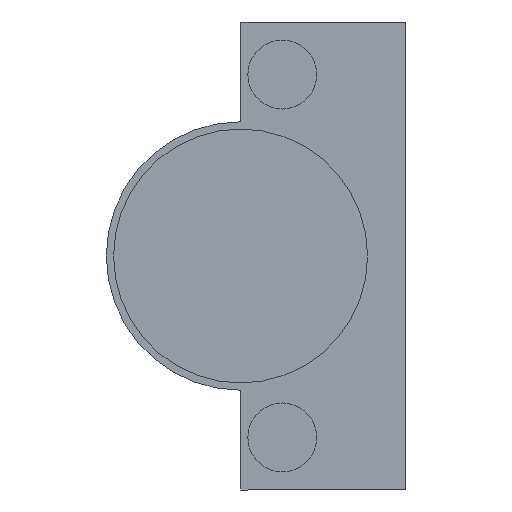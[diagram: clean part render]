
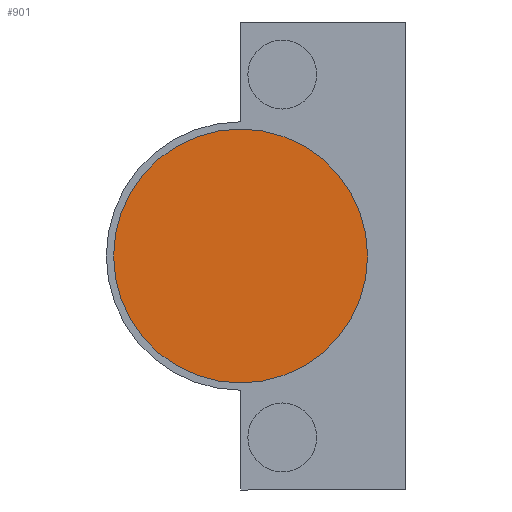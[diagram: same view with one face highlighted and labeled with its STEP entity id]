
A CAD part, front view. The second image highlights one B-rep face of the part: STEP entity #901.
In plain terms, the highlighted planar face has unit normal (0, -1, 0).
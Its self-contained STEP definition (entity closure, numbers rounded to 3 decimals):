
#14 = EDGE_CURVE ( 'NONE', #1265, #965, #587, .T. ) ;
#113 = AXIS2_PLACEMENT_3D ( 'NONE', #1296, #1310, #1294 ) ;
#116 = AXIS2_PLACEMENT_3D ( 'NONE', #949, #948, #987 ) ;
#216 = AXIS2_PLACEMENT_3D ( 'NONE', #1432, #1390, #1393 ) ;
#235 = EDGE_CURVE ( 'NONE', #965, #1265, #809, .T. ) ;
#379 = EDGE_LOOP ( 'NONE', ( #567, #566 ) ) ;
#566 = ORIENTED_EDGE ( 'NONE', *, *, #14, .T. ) ;
#567 = ORIENTED_EDGE ( 'NONE', *, *, #235, .T. ) ;
#587 = CIRCLE ( 'NONE', #116, 17.5 ) ;
#809 = CIRCLE ( 'NONE', #216, 17.5 ) ;
#817 = FACE_OUTER_BOUND ( 'NONE', #379, .T. ) ;
#901 = ADVANCED_FACE ( 'NONE', ( #817 ), #1362, .T. ) ;
#948 = DIRECTION ( 'NONE',  ( 0., -1., 0. ) ) ;
#949 = CARTESIAN_POINT ( 'NONE',  ( 5.5, -12.6, 0. ) ) ;
#965 = VERTEX_POINT ( 'NONE', #1104 ) ;
#987 = DIRECTION ( 'NONE',  ( 1., 0., 0. ) ) ;
#1056 = CARTESIAN_POINT ( 'NONE',  ( 23., -12.6, 0. ) ) ;
#1104 = CARTESIAN_POINT ( 'NONE',  ( -12., -12.6, 0. ) ) ;
#1265 = VERTEX_POINT ( 'NONE', #1056 ) ;
#1294 = DIRECTION ( 'NONE',  ( 1., 0., 0. ) ) ;
#1296 = CARTESIAN_POINT ( 'NONE',  ( 5.5, -12.6, 0. ) ) ;
#1310 = DIRECTION ( 'NONE',  ( 0., -1., 0. ) ) ;
#1362 = PLANE ( 'NONE',  #113 ) ;
#1390 = DIRECTION ( 'NONE',  ( 0., -1., 0. ) ) ;
#1393 = DIRECTION ( 'NONE',  ( 1., 0., 0. ) ) ;
#1432 = CARTESIAN_POINT ( 'NONE',  ( 5.5, -12.6, 0. ) ) ;
